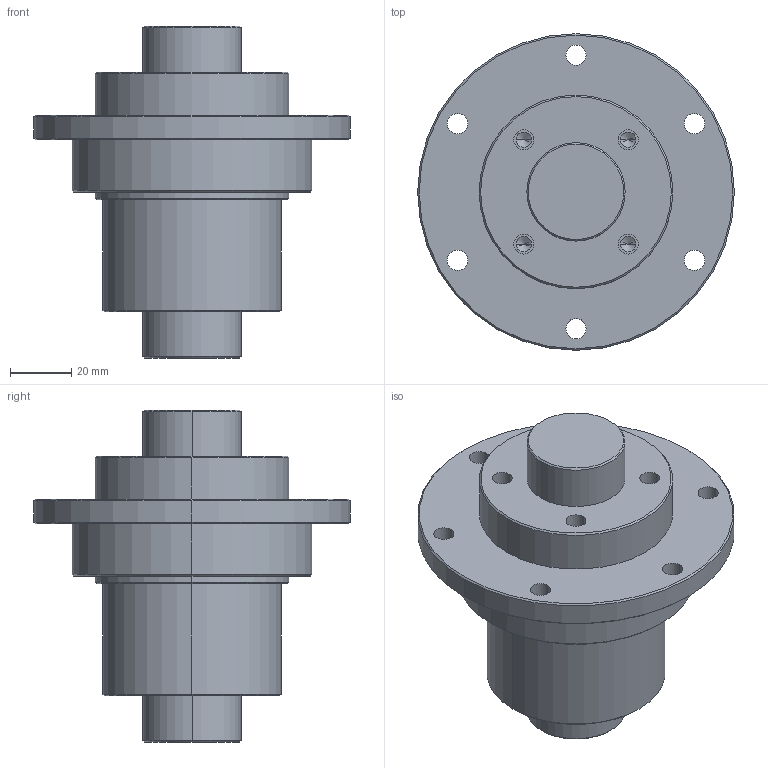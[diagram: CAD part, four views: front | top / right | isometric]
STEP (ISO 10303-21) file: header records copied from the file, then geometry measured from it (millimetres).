
FILE_DESCRIPTION (( 'STEP AP203' ), '1' );
FILE_NAME ('RFSY3232.STEP', '2014-11-13T05:13:57', ( '' ), ( '' ), 'SwSTEP 2.0', 'SolidWorks 2014', '' );
FILE_SCHEMA (( 'CONFIG_CONTROL_DESIGN' ));
Length unit declared in the file: millimetre
Products named in the file (1): RFSY3232
Bounding box: 103 x 103 x 108 mm (x, y, z)
Volume: 316441.9 mm3; surface area: 53214.3 mm2
Topology: 2 solids, 2 shells, 78 faces, 174 edges, 104 vertices
Faces by surface type: cylinder 42, cone 24, plane 12
Entity records: 2233 total; most frequent: DIRECTION 424, CARTESIAN_POINT 349, ORIENTED_EDGE 332, AXIS2_PLACEMENT_3D 179, EDGE_CURVE 166, VERTEX_POINT 104, EDGE_LOOP 104, CIRCLE 100
